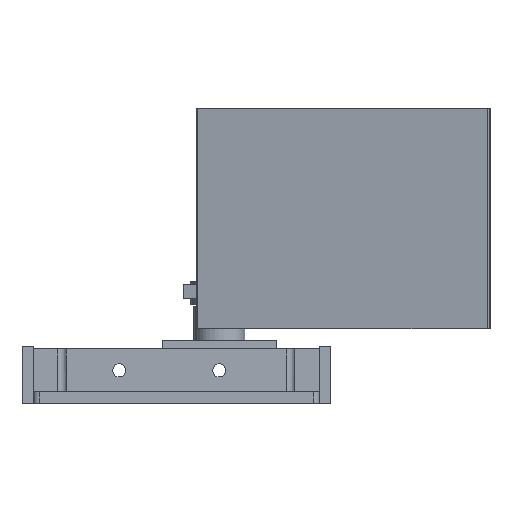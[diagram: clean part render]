
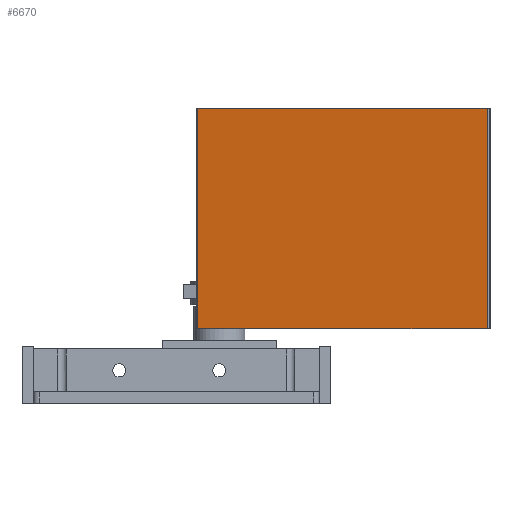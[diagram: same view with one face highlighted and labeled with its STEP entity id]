
A CAD part, front view. The second image highlights one B-rep face of the part: STEP entity #6670.
In plain terms, the highlighted planar face has unit normal (-0.174, -0.985, 0).
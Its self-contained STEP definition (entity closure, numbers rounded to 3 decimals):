
#6040 = PLANE('',#6041);
#6041 = AXIS2_PLACEMENT_3D('',#6042,#6043,#6044);
#6042 = CARTESIAN_POINT('',(57.414,-19.986,103.));
#6043 = DIRECTION('',(0.,0.,1.));
#6044 = DIRECTION('',(-0.174,-0.985,0.));
#6096 = PLANE('',#6097);
#6097 = AXIS2_PLACEMENT_3D('',#6098,#6099,#6100);
#6098 = CARTESIAN_POINT('',(57.414,-19.986,26.));
#6099 = DIRECTION('',(0.,0.,1.));
#6100 = DIRECTION('',(-0.174,-0.985,0.));
#6191 = VERTEX_POINT('',#6192);
#6192 = CARTESIAN_POINT('',(57.484,-23.045,103.));
#6211 = CYLINDRICAL_SURFACE('',#6212,0.6);
#6212 = AXIS2_PLACEMENT_3D('',#6213,#6214,#6215);
#6213 = CARTESIAN_POINT('',(57.588,-22.454,26.));
#6214 = DIRECTION('',(0.,0.,1.));
#6215 = DIRECTION('',(-0.174,-0.985,0.));
#6223 = EDGE_CURVE('',#6191,#6224,#6226,.T.);
#6224 = VERTEX_POINT('',#6225);
#6225 = CARTESIAN_POINT('',(158.722,-40.896,103.));
#6226 = SURFACE_CURVE('',#6227,(#6231,#6238),.PCURVE_S1.);
#6227 = LINE('',#6228,#6229);
#6228 = CARTESIAN_POINT('',(56.893,-22.941,103.));
#6229 = VECTOR('',#6230,1.);
#6230 = DIRECTION('',(0.985,-0.174,0.));
#6231 = PCURVE('',#6040,#6232);
#6232 = DEFINITIONAL_REPRESENTATION('',(#6233),#6237);
#6233 = LINE('',#6234,#6235);
#6234 = CARTESIAN_POINT('',(3.,0.));
#6235 = VECTOR('',#6236,1.);
#6236 = DIRECTION('',(0.,1.));
#6237 = ( GEOMETRIC_REPRESENTATION_CONTEXT(2) 
PARAMETRIC_REPRESENTATION_CONTEXT() REPRESENTATION_CONTEXT('2D SPACE',''
  ) );
#6238 = PCURVE('',#6239,#6244);
#6239 = PLANE('',#6240);
#6240 = AXIS2_PLACEMENT_3D('',#6241,#6242,#6243);
#6241 = CARTESIAN_POINT('',(56.893,-22.941,26.));
#6242 = DIRECTION('',(-0.174,-0.985,0.));
#6243 = DIRECTION('',(0.,0.,1.));
#6244 = DEFINITIONAL_REPRESENTATION('',(#6245),#6249);
#6245 = LINE('',#6246,#6247);
#6246 = CARTESIAN_POINT('',(77.,0.));
#6247 = VECTOR('',#6248,1.);
#6248 = DIRECTION('',(0.,-1.));
#6249 = ( GEOMETRIC_REPRESENTATION_CONTEXT(2) 
PARAMETRIC_REPRESENTATION_CONTEXT() REPRESENTATION_CONTEXT('2D SPACE',''
  ) );
#6268 = CYLINDRICAL_SURFACE('',#6269,0.6);
#6269 = AXIS2_PLACEMENT_3D('',#6270,#6271,#6272);
#6270 = CARTESIAN_POINT('',(158.827,-40.305,26.));
#6271 = DIRECTION('',(0.,0.,1.));
#6272 = DIRECTION('',(-0.174,-0.985,0.));
#6467 = VERTEX_POINT('',#6468);
#6468 = CARTESIAN_POINT('',(57.484,-23.045,26.));
#6494 = EDGE_CURVE('',#6467,#6495,#6497,.T.);
#6495 = VERTEX_POINT('',#6496);
#6496 = CARTESIAN_POINT('',(158.722,-40.896,26.));
#6497 = SURFACE_CURVE('',#6498,(#6502,#6509),.PCURVE_S1.);
#6498 = LINE('',#6499,#6500);
#6499 = CARTESIAN_POINT('',(56.893,-22.941,26.));
#6500 = VECTOR('',#6501,1.);
#6501 = DIRECTION('',(0.985,-0.174,0.));
#6502 = PCURVE('',#6096,#6503);
#6503 = DEFINITIONAL_REPRESENTATION('',(#6504),#6508);
#6504 = LINE('',#6505,#6506);
#6505 = CARTESIAN_POINT('',(3.,0.));
#6506 = VECTOR('',#6507,1.);
#6507 = DIRECTION('',(0.,1.));
#6508 = ( GEOMETRIC_REPRESENTATION_CONTEXT(2) 
PARAMETRIC_REPRESENTATION_CONTEXT() REPRESENTATION_CONTEXT('2D SPACE',''
  ) );
#6509 = PCURVE('',#6239,#6510);
#6510 = DEFINITIONAL_REPRESENTATION('',(#6511),#6515);
#6511 = LINE('',#6512,#6513);
#6512 = CARTESIAN_POINT('',(0.,0.));
#6513 = VECTOR('',#6514,1.);
#6514 = DIRECTION('',(0.,-1.));
#6515 = ( GEOMETRIC_REPRESENTATION_CONTEXT(2) 
PARAMETRIC_REPRESENTATION_CONTEXT() REPRESENTATION_CONTEXT('2D SPACE',''
  ) );
#6623 = EDGE_CURVE('',#6467,#6191,#6624,.T.);
#6624 = SURFACE_CURVE('',#6625,(#6629,#6636),.PCURVE_S1.);
#6625 = LINE('',#6626,#6627);
#6626 = CARTESIAN_POINT('',(57.484,-23.045,26.));
#6627 = VECTOR('',#6628,1.);
#6628 = DIRECTION('',(0.,0.,1.));
#6629 = PCURVE('',#6211,#6630);
#6630 = DEFINITIONAL_REPRESENTATION('',(#6631),#6635);
#6631 = LINE('',#6632,#6633);
#6632 = CARTESIAN_POINT('',(-0.,0.));
#6633 = VECTOR('',#6634,1.);
#6634 = DIRECTION('',(-0.,1.));
#6635 = ( GEOMETRIC_REPRESENTATION_CONTEXT(2) 
PARAMETRIC_REPRESENTATION_CONTEXT() REPRESENTATION_CONTEXT('2D SPACE',''
  ) );
#6636 = PCURVE('',#6239,#6637);
#6637 = DEFINITIONAL_REPRESENTATION('',(#6638),#6642);
#6638 = LINE('',#6639,#6640);
#6639 = CARTESIAN_POINT('',(0.,-0.6));
#6640 = VECTOR('',#6641,1.);
#6641 = DIRECTION('',(1.,0.));
#6642 = ( GEOMETRIC_REPRESENTATION_CONTEXT(2) 
PARAMETRIC_REPRESENTATION_CONTEXT() REPRESENTATION_CONTEXT('2D SPACE',''
  ) );
#6650 = EDGE_CURVE('',#6495,#6224,#6651,.T.);
#6651 = SURFACE_CURVE('',#6652,(#6656,#6663),.PCURVE_S1.);
#6652 = LINE('',#6653,#6654);
#6653 = CARTESIAN_POINT('',(158.722,-40.896,26.));
#6654 = VECTOR('',#6655,1.);
#6655 = DIRECTION('',(0.,0.,1.));
#6656 = PCURVE('',#6268,#6657);
#6657 = DEFINITIONAL_REPRESENTATION('',(#6658),#6662);
#6658 = LINE('',#6659,#6660);
#6659 = CARTESIAN_POINT('',(0.,0.));
#6660 = VECTOR('',#6661,1.);
#6661 = DIRECTION('',(0.,1.));
#6662 = ( GEOMETRIC_REPRESENTATION_CONTEXT(2) 
PARAMETRIC_REPRESENTATION_CONTEXT() REPRESENTATION_CONTEXT('2D SPACE',''
  ) );
#6663 = PCURVE('',#6239,#6664);
#6664 = DEFINITIONAL_REPRESENTATION('',(#6665),#6669);
#6665 = LINE('',#6666,#6667);
#6666 = CARTESIAN_POINT('',(0.,-103.4));
#6667 = VECTOR('',#6668,1.);
#6668 = DIRECTION('',(1.,0.));
#6669 = ( GEOMETRIC_REPRESENTATION_CONTEXT(2) 
PARAMETRIC_REPRESENTATION_CONTEXT() REPRESENTATION_CONTEXT('2D SPACE',''
  ) );
#6670 = ADVANCED_FACE('',(#6671),#6239,.T.);
#6671 = FACE_BOUND('',#6672,.T.);
#6672 = EDGE_LOOP('',(#6673,#6674,#6675,#6676));
#6673 = ORIENTED_EDGE('',*,*,#6223,.F.);
#6674 = ORIENTED_EDGE('',*,*,#6623,.F.);
#6675 = ORIENTED_EDGE('',*,*,#6494,.T.);
#6676 = ORIENTED_EDGE('',*,*,#6650,.T.);
